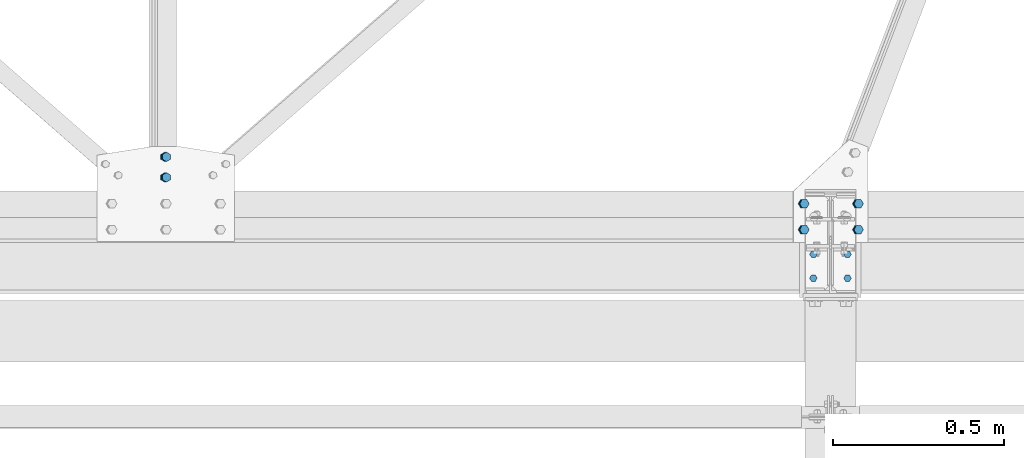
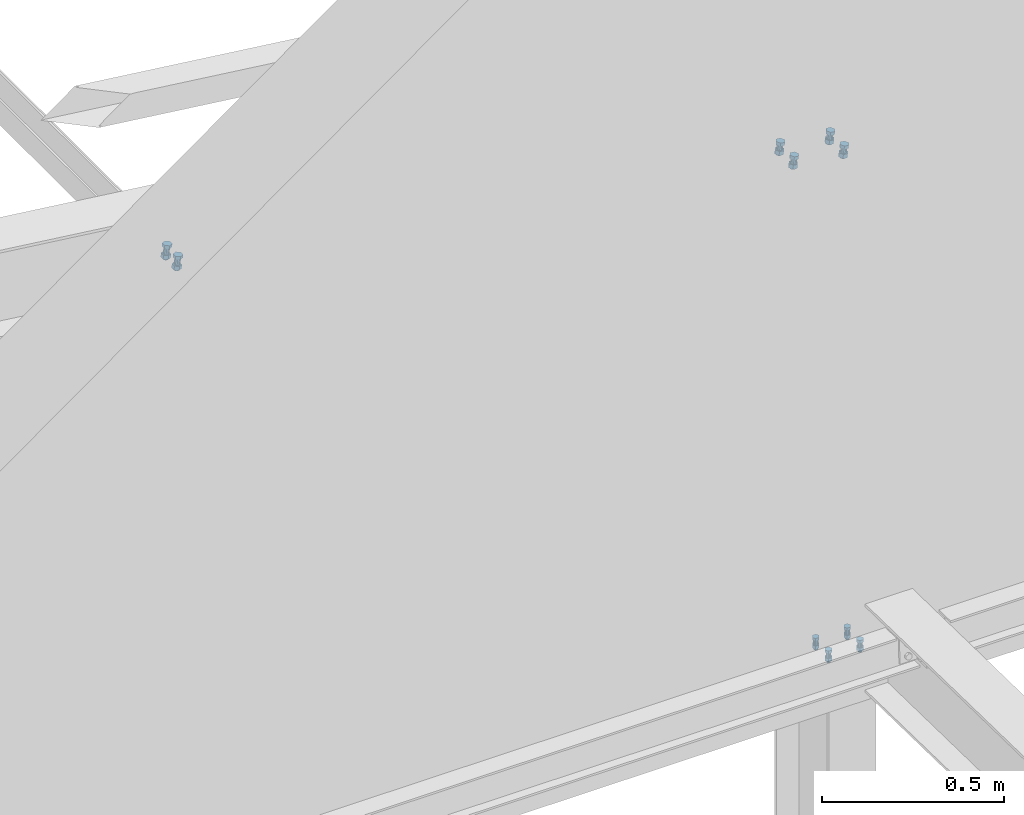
# One storey, part 26 of 3134: 4 mechanical fasteners, 4 elements without a shape of their own.
"""IFC2X3 building model written with IfcOpenShell, lengths in millimetres."""

from ifc_helpers import new_model, si_unit, frame, origin_with_axes, place, context, subcontext, project, spatial, faceted_brep, source, transform, mapped, material, type_object, element, aggregate, save


model = new_model("IFC2X3")

# Units and contexts
model_context = context("Model", 3, precision=1e-05, world=origin_with_axes())
body_context = subcontext(model_context, "Body", "Model", "MODEL_VIEW")
ifc_project = project(units=[si_unit("LENGTHUNIT", "METRE", prefix="MILLI"), si_unit("AREAUNIT", "SQUARE_METRE"), si_unit("VOLUMEUNIT", "CUBIC_METRE"), si_unit("MASSUNIT", "GRAM", prefix="KILO"), si_unit("TIMEUNIT", "SECOND"), si_unit("PLANEANGLEUNIT", "RADIAN"), si_unit("SOLIDANGLEUNIT", "STERADIAN"), si_unit("THERMODYNAMICTEMPERATUREUNIT", "DEGREE_CELSIUS"), si_unit("LUMINOUSINTENSITYUNIT", "LUMEN")], contexts=[model_context])

# Site, building, storey
site_placement = place(None, origin_with_axes())
site = spatial("IfcSite", under=ifc_project, at=site_placement, CompositionType="ELEMENT")
building_placement = place(site_placement, origin_with_axes())
building = spatial("IfcBuilding", under=site, at=building_placement, Name="Undefined", CompositionType="ELEMENT")
storey_placement = place(building_placement, origin_with_axes())
storey = spatial("IfcBuildingStorey", under=building, at=storey_placement, Name="Undefined", CompositionType="ELEMENT", Elevation=0.0)

# Assembly, mechanical fastener
assembly_1_placement = place(storey_placement, origin_with_axes())
assembly_1 = element("IfcElementAssembly", 1, at=assembly_1_placement, inside=storey, Name="UPN160", AssemblyPlace="NOTDEFINED", PredefinedType="RIGID_FRAME")
ifc_material = material(Name="8.8")
mechanical_fastener_type = type_object("IfcMechanicalFastenerType", Name="Bolt assembly")
shared_shape_1 = source(origin_with_axes(), body_context, "Body", "Brep", [
    faceted_brep([(10.9696551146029, -15.5, 0.0), (5.48482755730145, -15.5, 9.5), (-5.48482755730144, -15.5, 9.5), (-10.9696551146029, -15.5, 1.34339530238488e-15), (-5.48482755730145, -15.5, -9.5), (5.48482755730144, -15.5, -9.50000000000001), (5.48482755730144, -7.5, -9.50000000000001), (-5.48482755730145, -7.5, -9.5), (-10.9696551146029, -7.5, 1.34339530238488e-15), (-5.48482755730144, -7.5, 9.5), (5.48482755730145, -7.5, 9.5), (10.9696551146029, -7.5, 0.0), (6.0, -7.5, 0.0), (5.19615242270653, -7.5, 3.00000000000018), (2.99999999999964, -7.5, 5.19615242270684), (-6.21801588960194e-13, -7.5, 6.0), (-3.00000000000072, -7.5, 5.19615242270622), (-5.19615242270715, -7.5, 2.9999999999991), (-6.0, -7.5, -1.24360317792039e-12), (-5.19615242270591, -7.5, -3.00000000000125), (-2.99999999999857, -7.5, -5.19615242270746), (1.85874342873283e-12, -7.5, -6.0), (3.00000000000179, -7.5, -5.1961524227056), (5.19615242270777, -7.5, -2.99999999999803), (5.19615242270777, 27.5000000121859, -2.99999999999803), (3.00000000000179, 27.5000000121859, -5.1961524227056), (1.85874342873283e-12, 27.5000000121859, -6.0), (-2.99999999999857, 27.5000000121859, -5.19615242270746), (-5.19615242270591, 27.5000000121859, -3.00000000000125), (-6.0, 27.5000000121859, -1.24360317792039e-12), (-5.19615242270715, 27.5000000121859, 2.9999999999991), (-3.00000000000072, 27.5000000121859, 5.19615242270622), (-6.21801588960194e-13, 27.5000000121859, 6.0), (2.99999999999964, 27.5000000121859, 5.19615242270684), (5.19615242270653, 27.5000000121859, 3.00000000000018), (6.0, 27.5000000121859, 0.0), (10.9696551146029, 10.0, 0.0), (5.48482755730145, 10.0, 9.5), (-5.48482755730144, 10.0, 9.5), (-10.9696551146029, 10.0, 1.34339530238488e-15), (-5.48482755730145, 10.0, -9.5), (5.48482755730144, 10.0, -9.50000000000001), (5.48482755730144, 20.0, -9.50000000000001), (-5.48482755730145, 20.0, -9.5), (-10.9696551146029, 20.0, 1.34339530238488e-15), (-5.48482755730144, 20.0, 9.5), (5.48482755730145, 20.0, 9.5), (10.9696551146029, 20.0, 0.0)], [[[0, 1, 2, 3, 4, 5]], [[6, 7, 8, 9, 10, 11]], [[0, 11, 10, 1]], [[1, 10, 9, 2]], [[2, 9, 8, 3]], [[3, 8, 7, 4]], [[4, 7, 6, 5]], [[5, 6, 11, 0]], [[12, 13, 14, 15, 16, 17, 18, 19, 20, 21, 22, 23]], [[24, 25, 26, 27, 28, 29, 30, 31, 32, 33, 34, 35]], [[12, 35, 34, 13]], [[13, 34, 33, 14]], [[14, 33, 32, 15]], [[15, 32, 31, 16]], [[16, 31, 30, 17]], [[17, 30, 29, 18]], [[18, 29, 28, 19]], [[19, 28, 27, 20]], [[20, 27, 26, 21]], [[21, 26, 25, 22]], [[22, 25, 24, 23]], [[23, 24, 35, 12]], [[36, 37, 38, 39, 40, 41]], [[42, 43, 44, 45, 46, 47]], [[36, 47, 46, 37]], [[37, 46, 45, 38]], [[38, 45, 44, 39]], [[39, 44, 43, 40]], [[40, 43, 42, 41]], [[41, 42, 47, 36]]]),
    faceted_brep([(7.0, -0.1, 0.0), (6.06217782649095, -0.1, 3.50000000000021), (3.49999999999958, -0.1, 6.06217782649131), (-7.25435187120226e-13, -0.1, 7.0), (-3.50000000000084, -0.1, 6.06217782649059), (-6.06217782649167, -0.1, 3.49999999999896), (-7.0, -0.1, -1.45087037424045e-12), (-6.06217782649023, -0.1, -3.50000000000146), (-3.49999999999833, -0.1, -6.06217782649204), (2.1685340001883e-12, -0.1, -7.0), (3.50000000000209, -0.1, -6.06217782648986), (6.0621778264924, -0.1, -3.4999999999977), (6.0621778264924, 10.0, -3.4999999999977), (3.50000000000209, 10.0, -6.06217782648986), (2.1685340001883e-12, 10.0, -7.0), (-3.49999999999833, 10.0, -6.06217782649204), (-6.06217782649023, 10.0, -3.50000000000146), (-7.0, 10.0, -1.45087037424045e-12), (-6.06217782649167, 10.0, 3.49999999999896), (-3.50000000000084, 10.0, 6.06217782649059), (-7.25435187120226e-13, 10.0, 7.0), (3.49999999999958, 10.0, 6.06217782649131), (6.06217782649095, 10.0, 3.50000000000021), (7.0, 10.0, 0.0), (7.0, -7.4, 0.0), (6.06217782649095, -7.4, 3.50000000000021), (3.49999999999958, -7.4, 6.06217782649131), (-7.25435187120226e-13, -7.4, 7.0), (-3.50000000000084, -7.4, 6.06217782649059), (-6.06217782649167, -7.4, 3.49999999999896), (-7.0, -7.4, -1.45087037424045e-12), (-6.06217782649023, -7.4, -3.50000000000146), (-3.49999999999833, -7.4, -6.06217782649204), (2.1685340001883e-12, -7.4, -7.0), (3.50000000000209, -7.4, -6.06217782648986), (6.0621778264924, -7.4, -3.4999999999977), (6.0621778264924, 0.0999999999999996, -3.4999999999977), (3.50000000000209, 0.0999999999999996, -6.06217782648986), (2.1685340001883e-12, 0.0999999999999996, -7.0), (-3.49999999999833, 0.0999999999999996, -6.06217782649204), (-6.06217782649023, 0.0999999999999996, -3.50000000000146), (-7.0, 0.0999999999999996, -1.45087037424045e-12), (-6.06217782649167, 0.0999999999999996, 3.49999999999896), (-3.50000000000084, 0.0999999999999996, 6.06217782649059), (-7.25435187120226e-13, 0.0999999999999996, 7.0), (3.49999999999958, 0.0999999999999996, 6.06217782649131), (6.06217782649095, 0.0999999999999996, 3.50000000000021), (7.0, 0.0999999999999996, 0.0)], [[[0, 1, 2, 3, 4, 5, 6, 7, 8, 9, 10, 11]], [[12, 13, 14, 15, 16, 17, 18, 19, 20, 21, 22, 23]], [[0, 23, 22, 1]], [[1, 22, 21, 2]], [[2, 21, 20, 3]], [[3, 20, 19, 4]], [[4, 19, 18, 5]], [[5, 18, 17, 6]], [[6, 17, 16, 7]], [[7, 16, 15, 8]], [[8, 15, 14, 9]], [[9, 14, 13, 10]], [[10, 13, 12, 11]], [[11, 12, 23, 0]], [[24, 25, 26, 27, 28, 29, 30, 31, 32, 33, 34, 35]], [[36, 37, 38, 39, 40, 41, 42, 43, 44, 45, 46, 47]], [[24, 47, 46, 25]], [[25, 46, 45, 26]], [[26, 45, 44, 27]], [[27, 44, 43, 28]], [[28, 43, 42, 29]], [[29, 42, 41, 30]], [[30, 41, 40, 31]], [[31, 40, 39, 32]], [[32, 39, 38, 33]], [[33, 38, 37, 34]], [[34, 37, 36, 35]], [[35, 36, 47, 24]]]),
])
mechanical_fastener_1_placement = place(assembly_1_placement, frame((28582.9999999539, -145.0, 3000.00000001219), z_axis=(0.0, 1.0, 0.0), x_axis=(1.0, 0.0, 0.0)))
mechanical_fastener_1 = element("IfcMechanicalFastener", 2, at=mechanical_fastener_1_placement, type_object=mechanical_fastener_type, material=ifc_material, Name="Bolt assembly", NominalDiameter=12.0, NominalLength=35.0, context=body_context, shape_type="MappedRepresentation", body=[
    mapped(shared_shape_1, transform((0.0, 0.0, -35.0))),
    mapped(shared_shape_1, transform((0.0, 0.0, 35.0))),
])
aggregate(assembly_1, [mechanical_fastener_1])

assembly_2_placement = place(storey_placement, origin_with_axes())
assembly_2 = element("IfcElementAssembly", 3, at=assembly_2_placement, inside=storey, Name="UPN160", AssemblyPlace="NOTDEFINED", PredefinedType="RIGID_FRAME")
mechanical_fastener_2_placement = place(assembly_2_placement, frame((28682.9999999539, -145.0, 3000.00000001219), z_axis=(0.0, 1.0, 0.0), x_axis=(1.0, 0.0, 0.0)))
mechanical_fastener_2 = element("IfcMechanicalFastener", 4, at=mechanical_fastener_2_placement, type_object=mechanical_fastener_type, material=ifc_material, Name="Bolt assembly", NominalDiameter=12.0, NominalLength=35.0, context=body_context, shape_type="MappedRepresentation", body=[
    mapped(shared_shape_1, transform((0.0, 0.0, -35.0))),
    mapped(shared_shape_1, transform((0.0, 0.0, 35.0))),
])
aggregate(assembly_2, [mechanical_fastener_2])

assembly_3_placement = place(storey_placement, origin_with_axes())
assembly_3 = element("IfcElementAssembly", 5, at=assembly_3_placement, inside=storey, Name="300", AssemblyPlace="NOTDEFINED", PredefinedType="RIGID_FRAME")
shared_shape_2 = source(origin_with_axes(), body_context, "Body", "Brep", [
    faceted_brep([(13.856406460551, -23.1999997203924, 0.0), (6.92820323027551, -23.1999997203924, 12.0), (-6.92820323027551, -23.1999997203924, 12.0), (-13.856406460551, -23.1999997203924, 1.69692038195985e-15), (-6.92820323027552, -23.1999997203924, -12.0), (6.9282032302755, -23.1999997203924, -12.0), (6.9282032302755, -13.1999997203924, -12.0), (-6.92820323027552, -13.1999997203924, -12.0), (-13.856406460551, -13.1999997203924, 1.69692038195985e-15), (-6.92820323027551, -13.1999997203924, 12.0), (6.92820323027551, -13.1999997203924, 12.0), (13.856406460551, -13.1999997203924, 0.0), (8.0, -13.1999997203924, 0.0), (6.92820323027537, -13.1999997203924, 4.00000000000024), (3.99999999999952, -13.1999997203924, 6.92820323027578), (-8.29068785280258e-13, -13.1999997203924, 8.0), (-4.00000000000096, -13.1999997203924, 6.92820323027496), (-6.9282032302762, -13.1999997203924, 3.99999999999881), (-8.0, -13.1999997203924, -1.65813757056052e-12), (-6.92820323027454, -13.1999997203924, -4.00000000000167), (-3.99999999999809, -13.1999997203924, -6.92820323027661), (2.47832457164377e-12, -13.1999997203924, -8.0), (4.00000000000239, -13.1999997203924, -6.92820323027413), (6.92820323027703, -13.1999997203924, -3.99999999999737), (6.92820323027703, 21.8000002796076, -3.99999999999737), (4.00000000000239, 21.8000002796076, -6.92820323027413), (2.47832457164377e-12, 21.8000002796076, -8.0), (-3.99999999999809, 21.8000002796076, -6.92820323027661), (-6.92820323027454, 21.8000002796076, -4.00000000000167), (-8.0, 21.8000002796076, -1.65813757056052e-12), (-6.9282032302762, 21.8000002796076, 3.99999999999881), (-4.00000000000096, 21.8000002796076, 6.92820323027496), (-8.29068785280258e-13, 21.8000002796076, 8.0), (3.99999999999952, 21.8000002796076, 6.92820323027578), (6.92820323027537, 21.8000002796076, 4.00000000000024), (8.0, 21.8000002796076, 0.0), (13.856406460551, 3.99999999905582, 0.0), (6.92820323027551, 3.99999999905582, 12.0), (-6.92820323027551, 3.99999999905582, 12.0), (-13.856406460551, 3.99999999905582, 1.69692038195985e-15), (-6.92820323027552, 3.99999999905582, -12.0), (6.9282032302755, 3.99999999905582, -12.0), (6.9282032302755, 16.9999999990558, -12.0), (-6.92820323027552, 16.9999999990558, -12.0), (-13.856406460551, 16.9999999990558, 1.69692038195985e-15), (-6.92820323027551, 16.9999999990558, 12.0), (6.92820323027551, 16.9999999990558, 12.0), (13.856406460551, 16.9999999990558, 0.0)], [[[0, 1, 2, 3, 4, 5]], [[6, 7, 8, 9, 10, 11]], [[0, 11, 10, 1]], [[1, 10, 9, 2]], [[2, 9, 8, 3]], [[3, 8, 7, 4]], [[4, 7, 6, 5]], [[5, 6, 11, 0]], [[12, 13, 14, 15, 16, 17, 18, 19, 20, 21, 22, 23]], [[24, 25, 26, 27, 28, 29, 30, 31, 32, 33, 34, 35]], [[12, 35, 34, 13]], [[13, 34, 33, 14]], [[14, 33, 32, 15]], [[15, 32, 31, 16]], [[16, 31, 30, 17]], [[17, 30, 29, 18]], [[18, 29, 28, 19]], [[19, 28, 27, 20]], [[20, 27, 26, 21]], [[21, 26, 25, 22]], [[22, 25, 24, 23]], [[23, 24, 35, 12]], [[36, 37, 38, 39, 40, 41]], [[42, 43, 44, 45, 46, 47]], [[36, 47, 46, 37]], [[37, 46, 45, 38]], [[38, 45, 44, 39]], [[39, 44, 43, 40]], [[40, 43, 42, 41]], [[41, 42, 47, 36]]]),
    faceted_brep([(9.0, -4.10000000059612, 0.0), (7.79422863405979, -4.10000000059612, 4.50000000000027), (4.49999999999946, -4.10000000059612, 7.79422863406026), (-9.3270238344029e-13, -4.10000000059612, 9.0), (-4.50000000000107, -4.10000000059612, 7.79422863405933), (-7.79422863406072, -4.10000000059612, 4.49999999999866), (-9.0, -4.10000000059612, -1.86540476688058e-12), (-7.79422863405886, -4.10000000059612, -4.50000000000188), (-4.49999999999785, -4.10000000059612, -7.79422863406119), (2.78811514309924e-12, -4.10000000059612, -9.0), (4.50000000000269, -4.10000000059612, -7.7942286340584), (7.79422863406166, -4.10000000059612, -4.49999999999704), (7.79422863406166, 4.00000375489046, -4.49999999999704), (4.50000000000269, 4.00000375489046, -7.7942286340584), (2.78811514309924e-12, 4.00000375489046, -9.0), (-4.49999999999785, 4.00000375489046, -7.79422863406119), (-7.79422863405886, 4.00000375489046, -4.50000000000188), (-9.0, 4.00000375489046, -1.86540476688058e-12), (-7.79422863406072, 4.00000375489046, 4.49999999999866), (-4.50000000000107, 4.00000375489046, 7.79422863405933), (-9.3270238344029e-13, 4.00000375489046, 9.0), (4.49999999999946, 4.00000375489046, 7.79422863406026), (7.79422863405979, 4.00000375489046, 4.50000000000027), (9.0, 4.00000375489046, 0.0), (9.0, -13.0999997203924, 0.0), (7.79422863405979, -13.0999997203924, 4.50000000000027), (4.49999999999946, -13.0999997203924, 7.79422863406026), (-9.3270238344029e-13, -13.0999997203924, 9.0), (-4.50000000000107, -13.0999997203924, 7.79422863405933), (-7.79422863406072, -13.0999997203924, 4.49999999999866), (-9.0, -13.0999997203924, -1.86540476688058e-12), (-7.79422863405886, -13.0999997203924, -4.50000000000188), (-4.49999999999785, -13.0999997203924, -7.79422863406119), (2.78811514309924e-12, -13.0999997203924, -9.0), (4.50000000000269, -13.0999997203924, -7.7942286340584), (7.79422863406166, -13.0999997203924, -4.49999999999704), (7.79422863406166, -3.9, -4.49999999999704), (4.50000000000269, -3.9, -7.7942286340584), (2.78811514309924e-12, -3.9, -9.0), (-4.49999999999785, -3.9, -7.79422863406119), (-7.79422863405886, -3.9, -4.50000000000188), (-9.0, -3.9, -1.86540476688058e-12), (-7.79422863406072, -3.9, 4.49999999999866), (-4.50000000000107, -3.9, 7.79422863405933), (-9.3270238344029e-13, -3.9, 9.0), (4.49999999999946, -3.9, 7.79422863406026), (7.79422863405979, -3.9, 4.50000000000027), (9.0, -3.9, 0.0)], [[[0, 1, 2, 3, 4, 5, 6, 7, 8, 9, 10, 11]], [[12, 13, 14, 15, 16, 17, 18, 19, 20, 21, 22, 23]], [[0, 23, 22, 1]], [[1, 22, 21, 2]], [[2, 21, 20, 3]], [[3, 20, 19, 4]], [[4, 19, 18, 5]], [[5, 18, 17, 6]], [[6, 17, 16, 7]], [[7, 16, 15, 8]], [[8, 15, 14, 9]], [[9, 14, 13, 10]], [[10, 13, 12, 11]], [[11, 12, 23, 0]], [[24, 25, 26, 27, 28, 29, 30, 31, 32, 33, 34, 35]], [[36, 37, 38, 39, 40, 41, 42, 43, 44, 45, 46, 47]], [[24, 47, 46, 25]], [[25, 46, 45, 26]], [[26, 45, 44, 27]], [[27, 44, 43, 28]], [[28, 43, 42, 29]], [[29, 42, 41, 30]], [[30, 41, 40, 31]], [[31, 40, 39, 32]], [[32, 39, 38, 33]], [[33, 38, 37, 34]], [[34, 37, 36, 35]], [[35, 36, 47, 24]]]),
])
mechanical_fastener_3_placement = place(assembly_3_placement, frame((28712.9515872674, 0.0, 4555.37175728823), z_axis=(0.0, -1.0, 0.0), x_axis=(-0.992623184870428, 0.0, 0.121240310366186)))
mechanical_fastener_3 = element("IfcMechanicalFastener", 6, at=mechanical_fastener_3_placement, type_object=mechanical_fastener_type, material=ifc_material, Name="Bolt assembly", NominalDiameter=16.0, NominalLength=35.0, context=body_context, shape_type="MappedRepresentation", body=[
    mapped(shared_shape_2, transform((0.0, 0.0, -38.0))),
    mapped(shared_shape_2, transform((159.99999999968, -2.71938915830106e-10, -38.0))),
    mapped(shared_shape_2, transform((0.0, 0.0, 38.0))),
    mapped(shared_shape_2, transform((159.99999999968, -2.71938915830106e-10, 38.0))),
])
aggregate(assembly_3, [mechanical_fastener_3])

assembly_4_placement = place(storey_placement, origin_with_axes())
assembly_4 = element("IfcElementAssembly", 7, at=assembly_4_placement, inside=storey, AssemblyPlace="NOTDEFINED", PredefinedType="RIGID_FRAME")
shared_shape_3 = source(origin_with_axes(), body_context, "Body", "Brep", [
    faceted_brep([(13.856406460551, -16.9990000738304, 0.0), (6.92820323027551, -16.9990000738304, 12.0), (-6.92820323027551, -16.9990000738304, 12.0), (-13.856406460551, -16.9990000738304, 1.69692038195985e-15), (-6.92820323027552, -16.9990000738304, -12.0), (6.9282032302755, -16.9990000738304, -12.0), (6.9282032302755, -6.99900007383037, -12.0), (-6.92820323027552, -6.99900007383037, -12.0), (-13.856406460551, -6.99900007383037, 1.69692038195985e-15), (-6.92820323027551, -6.99900007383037, 12.0), (6.92820323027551, -6.99900007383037, 12.0), (13.856406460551, -6.99900007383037, 0.0), (8.0, -6.99900007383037, 0.0), (6.92820323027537, -6.99900007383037, 4.00000000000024), (3.99999999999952, -6.99900007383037, 6.92820323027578), (-8.29068785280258e-13, -6.99900007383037, 8.0), (-4.00000000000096, -6.99900007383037, 6.92820323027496), (-6.9282032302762, -6.99900007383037, 3.99999999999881), (-8.0, -6.99900007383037, -1.65813757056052e-12), (-6.92820323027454, -6.99900007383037, -4.00000000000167), (-3.99999999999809, -6.99900007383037, -6.92820323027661), (2.47832457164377e-12, -6.99900007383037, -8.0), (4.00000000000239, -6.99900007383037, -6.92820323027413), (6.92820323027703, -6.99900007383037, -3.99999999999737), (6.92820323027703, 33.0009999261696, -3.99999999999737), (4.00000000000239, 33.0009999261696, -6.92820323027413), (2.47832457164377e-12, 33.0009999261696, -8.0), (-3.99999999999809, 33.0009999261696, -6.92820323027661), (-6.92820323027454, 33.0009999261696, -4.00000000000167), (-8.0, 33.0009999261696, -1.65813757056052e-12), (-6.9282032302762, 33.0009999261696, 3.99999999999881), (-4.00000000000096, 33.0009999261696, 6.92820323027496), (-8.29068785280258e-13, 33.0009999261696, 8.0), (3.99999999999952, 33.0009999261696, 6.92820323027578), (6.92820323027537, 33.0009999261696, 4.00000000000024), (8.0, 33.0009999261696, 0.0), (13.856406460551, 14.9990000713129, 0.0), (6.92820323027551, 14.9990000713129, 12.0), (-6.92820323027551, 14.9990000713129, 12.0), (-13.856406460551, 14.9990000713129, 1.69692038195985e-15), (-6.92820323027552, 14.9990000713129, -12.0), (6.9282032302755, 14.9990000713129, -12.0), (6.9282032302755, 27.9990000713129, -12.0), (-6.92820323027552, 27.9990000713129, -12.0), (-13.856406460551, 27.9990000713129, 1.69692038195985e-15), (-6.92820323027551, 27.9990000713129, 12.0), (6.92820323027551, 27.9990000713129, 12.0), (13.856406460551, 27.9990000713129, 0.0)], [[[0, 1, 2, 3, 4, 5]], [[6, 7, 8, 9, 10, 11]], [[0, 11, 10, 1]], [[1, 10, 9, 2]], [[2, 9, 8, 3]], [[3, 8, 7, 4]], [[4, 7, 6, 5]], [[5, 6, 11, 0]], [[12, 13, 14, 15, 16, 17, 18, 19, 20, 21, 22, 23]], [[24, 25, 26, 27, 28, 29, 30, 31, 32, 33, 34, 35]], [[12, 35, 34, 13]], [[13, 34, 33, 14]], [[14, 33, 32, 15]], [[15, 32, 31, 16]], [[16, 31, 30, 17]], [[17, 30, 29, 18]], [[18, 29, 28, 19]], [[19, 28, 27, 20]], [[20, 27, 26, 21]], [[21, 26, 25, 22]], [[22, 25, 24, 23]], [[23, 24, 35, 12]], [[36, 37, 38, 39, 40, 41]], [[42, 43, 44, 45, 46, 47]], [[36, 47, 46, 37]], [[37, 46, 45, 38]], [[38, 45, 44, 39]], [[39, 44, 43, 40]], [[40, 43, 42, 41]], [[41, 42, 47, 36]]]),
    faceted_brep([(9.0, -3.46568413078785e-07, 0.0), (7.79422863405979, -3.46568413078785e-07, 4.50000000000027), (4.49999999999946, -3.46568413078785e-07, 7.79422863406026), (-9.3270238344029e-13, -3.46568413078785e-07, 9.0), (-4.50000000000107, -3.46568413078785e-07, 7.79422863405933), (-7.79422863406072, -3.46568413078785e-07, 4.49999999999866), (-9.0, -3.46568413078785e-07, -1.86540476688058e-12), (-7.79422863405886, -3.46568413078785e-07, -4.50000000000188), (-4.49999999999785, -3.46568413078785e-07, -7.79422863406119), (2.78811514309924e-12, -3.46568413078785e-07, -9.0), (4.50000000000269, -3.46568413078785e-07, -7.7942286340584), (7.79422863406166, -3.46568413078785e-07, -4.49999999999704), (7.79422863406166, 8.00000000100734, -4.49999999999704), (4.50000000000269, 8.00000000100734, -7.7942286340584), (2.78811514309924e-12, 8.00000000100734, -9.0), (-4.49999999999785, 8.00000000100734, -7.79422863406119), (-7.79422863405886, 8.00000000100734, -4.50000000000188), (-9.0, 8.00000000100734, -1.86540476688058e-12), (-7.79422863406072, 8.00000000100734, 4.49999999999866), (-4.50000000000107, 8.00000000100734, 7.79422863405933), (-9.3270238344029e-13, 8.00000000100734, 9.0), (4.49999999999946, 8.00000000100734, 7.79422863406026), (7.79422863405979, 8.00000000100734, 4.50000000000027), (9.0, 8.00000000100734, 0.0), (9.0, -6.89900007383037, 0.0), (7.79422863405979, -6.89900007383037, 4.50000000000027), (4.49999999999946, -6.89900007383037, 7.79422863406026), (-9.3270238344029e-13, -6.89900007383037, 9.0), (-4.50000000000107, -6.89900007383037, 7.79422863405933), (-7.79422863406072, -6.89900007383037, 4.49999999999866), (-9.0, -6.89900007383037, -1.86540476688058e-12), (-7.79422863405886, -6.89900007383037, -4.50000000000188), (-4.49999999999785, -6.89900007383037, -7.79422863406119), (2.78811514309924e-12, -6.89900007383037, -9.0), (4.50000000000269, -6.89900007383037, -7.7942286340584), (7.79422863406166, -6.89900007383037, -4.49999999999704), (7.79422863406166, 0.100999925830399, -4.49999999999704), (4.50000000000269, 0.100999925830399, -7.7942286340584), (2.78811514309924e-12, 0.100999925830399, -9.0), (-4.49999999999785, 0.100999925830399, -7.79422863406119), (-7.79422863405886, 0.100999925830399, -4.50000000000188), (-9.0, 0.100999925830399, -1.86540476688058e-12), (-7.79422863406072, 0.100999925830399, 4.49999999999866), (-4.50000000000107, 0.100999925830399, 7.79422863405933), (-9.3270238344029e-13, 0.100999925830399, 9.0), (4.49999999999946, 0.100999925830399, 7.79422863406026), (7.79422863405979, 0.100999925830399, 4.50000000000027), (9.0, 0.100999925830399, 0.0), (9.0, 7.89900007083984, 0.0), (7.79422863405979, 7.89900007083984, 4.50000000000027), (4.49999999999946, 7.89900007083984, 7.79422863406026), (-9.3270238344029e-13, 7.89900007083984, 9.0), (-4.50000000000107, 7.89900007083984, 7.79422863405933), (-7.79422863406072, 7.89900007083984, 4.49999999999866), (-9.0, 7.89900007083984, -1.86540476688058e-12), (-7.79422863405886, 7.89900007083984, -4.50000000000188), (-4.49999999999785, 7.89900007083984, -7.79422863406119), (2.78811514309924e-12, 7.89900007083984, -9.0), (4.50000000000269, 7.89900007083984, -7.7942286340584), (7.79422863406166, 7.89900007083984, -4.49999999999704), (7.79422863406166, 14.9990000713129, -4.49999999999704), (4.50000000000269, 14.9990000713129, -7.7942286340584), (2.78811514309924e-12, 14.9990000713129, -9.0), (-4.49999999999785, 14.9990000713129, -7.79422863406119), (-7.79422863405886, 14.9990000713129, -4.50000000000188), (-9.0, 14.9990000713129, -1.86540476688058e-12), (-7.79422863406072, 14.9990000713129, 4.49999999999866), (-4.50000000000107, 14.9990000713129, 7.79422863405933), (-9.3270238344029e-13, 14.9990000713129, 9.0), (4.49999999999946, 14.9990000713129, 7.79422863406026), (7.79422863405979, 14.9990000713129, 4.50000000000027), (9.0, 14.9990000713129, 0.0)], [[[0, 1, 2, 3, 4, 5, 6, 7, 8, 9, 10, 11]], [[12, 13, 14, 15, 16, 17, 18, 19, 20, 21, 22, 23]], [[0, 23, 22, 1]], [[1, 22, 21, 2]], [[2, 21, 20, 3]], [[3, 20, 19, 4]], [[4, 19, 18, 5]], [[5, 18, 17, 6]], [[6, 17, 16, 7]], [[7, 16, 15, 8]], [[8, 15, 14, 9]], [[9, 14, 13, 10]], [[10, 13, 12, 11]], [[11, 12, 23, 0]], [[24, 25, 26, 27, 28, 29, 30, 31, 32, 33, 34, 35]], [[36, 37, 38, 39, 40, 41, 42, 43, 44, 45, 46, 47]], [[24, 47, 46, 25]], [[25, 46, 45, 26]], [[26, 45, 44, 27]], [[27, 44, 43, 28]], [[28, 43, 42, 29]], [[29, 42, 41, 30]], [[30, 41, 40, 31]], [[31, 40, 39, 32]], [[32, 39, 38, 33]], [[33, 38, 37, 34]], [[34, 37, 36, 35]], [[35, 36, 47, 24]], [[48, 49, 50, 51, 52, 53, 54, 55, 56, 57, 58, 59]], [[60, 61, 62, 63, 64, 65, 66, 67, 68, 69, 70, 71]], [[48, 71, 70, 49]], [[49, 70, 69, 50]], [[50, 69, 68, 51]], [[51, 68, 67, 52]], [[52, 67, 66, 53]], [[53, 66, 65, 54]], [[54, 65, 64, 55]], [[55, 64, 63, 56]], [[56, 63, 62, 57]], [[57, 62, 61, 58]], [[58, 61, 60, 59]], [[59, 60, 71, 48]]]),
])
mechanical_fastener_4_placement = place(assembly_4_placement, frame((26687.9827951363, 115.000000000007, 4806.73385378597), z_axis=(-0.992623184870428, 0.0, 0.121240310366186), x_axis=(0.0, 1.0, 0.0)))
mechanical_fastener_4 = element("IfcMechanicalFastener", 8, at=mechanical_fastener_4_placement, type_object=mechanical_fastener_type, material=ifc_material, Name="Bolt assembly", NominalDiameter=16.0, NominalLength=40.0, context=body_context, shape_type="MappedRepresentation", body=[
    mapped(shared_shape_3, transform((0.0, 0.0, 0.0))),
    mapped(shared_shape_3, transform((59.9999999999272, 0.0, 5.40239852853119e-10))),
])
aggregate(assembly_4, [mechanical_fastener_4])

save(model, "model.ifc")
